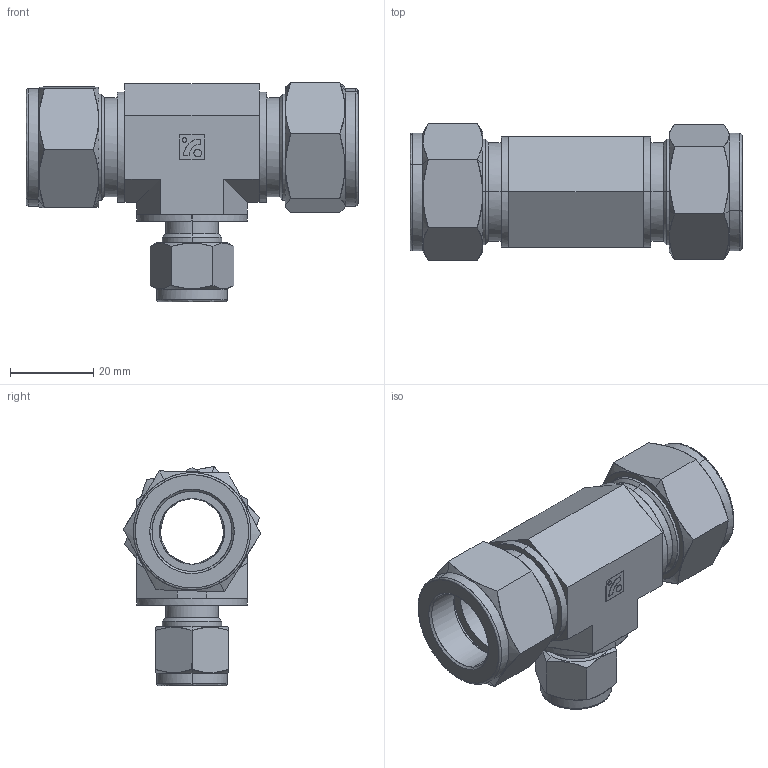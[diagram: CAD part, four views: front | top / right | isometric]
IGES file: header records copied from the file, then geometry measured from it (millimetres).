
Start section: Comment
Global section: file name: SRUT12-12-6.igs; native system:  By UGS Corp.; preprocessor: XPlus GENERIC/IGES 3.0; author: Author; organization: Title; date: 20100713.193856; units: millimetre
Bounding box: 79.74 x 32.98 x 52.7 mm (x, y, z)
Surface area: 20226.1 mm2 (no closed solid volume)
Topology: 0 solids, 0 shells, 190 faces, 828 edges, 828 vertices
Faces by surface type: bspline 190
